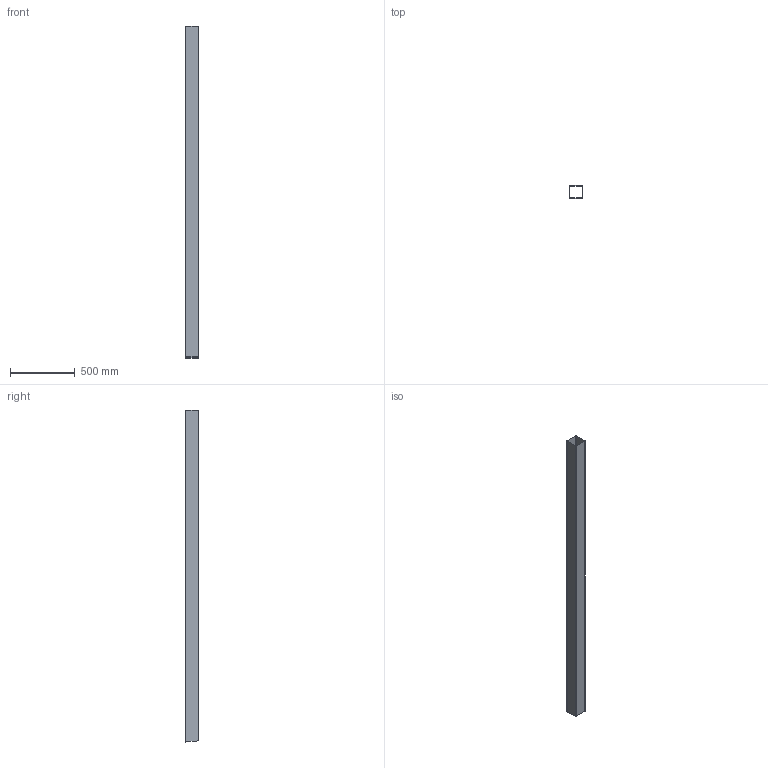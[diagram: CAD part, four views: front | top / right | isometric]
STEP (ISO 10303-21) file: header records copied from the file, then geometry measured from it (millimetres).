
FILE_DESCRIPTION (( 'STEP AP203' ), '1' );
FILE_NAME ('NEW PROJECT-2.STEP', '2025-10-06T07:56:31', ( '' ), ( '' ), 'SwSTEP 2.0', 'SolidWorks 2025', '' );
FILE_SCHEMA (( 'CONFIG_CONTROL_DESIGN' ));
Length unit declared in the file: centimetre
Products named in the file (1): NEW PROJECT-2
Bounding box: 100 x 100 x 2565.2 mm (x, y, z)
Volume: 1501907.2 mm3; surface area: 2003718.2 mm2
Topology: 1 solids, 1 shells, 18 faces, 48 edges, 32 vertices
Faces by surface type: plane 10, cylinder 8
Entity records: 639 total; most frequent: CARTESIAN_POINT 123, ORIENTED_EDGE 96, DIRECTION 86, EDGE_CURVE 48, LINE 32, VECTOR 32, VERTEX_POINT 32, AXIS2_PLACEMENT_3D 27
